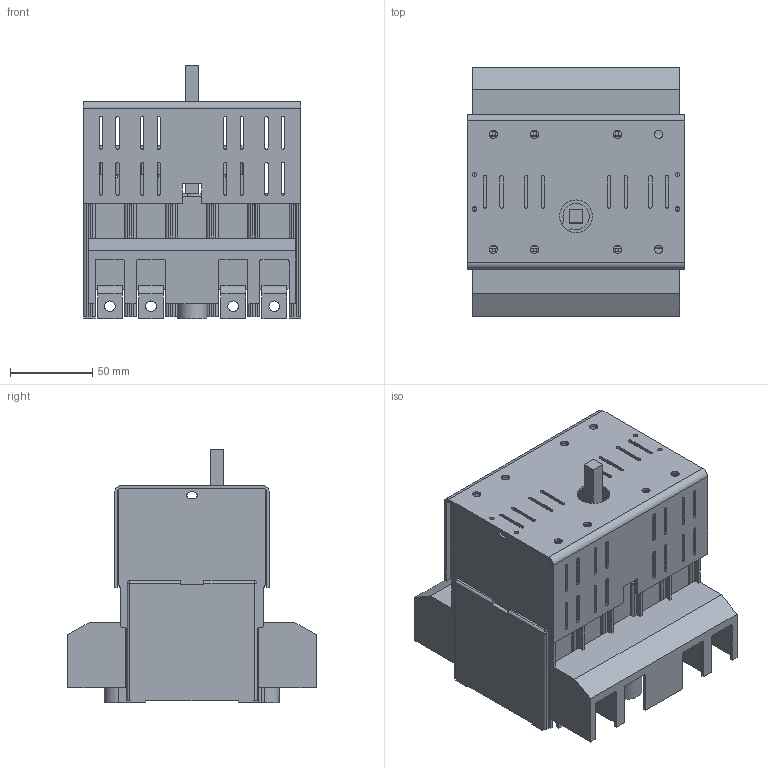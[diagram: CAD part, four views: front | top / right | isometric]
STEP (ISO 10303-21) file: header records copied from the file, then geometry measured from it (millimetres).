
FILE_DESCRIPTION(/* description */ (''),/* implementation_level */ '2;1');
FILE_NAME(/* name */ 'RAB 000 P3 NB, P4 B z oslona zaciskow.stp',/* time_stamp */ '2021-08-19T10:35:09+02:00',/* author */ (''),/* organization */ (''),/* preprocessor_version */ 'ST-DEVELOPER v18.1',/* originating_system */ 'SIEMENS PLM Software NX 1965',/* authorisation */ '');
FILE_SCHEMA (('AUTOMOTIVE_DESIGN { 1 0 10303 214 3 1 1 1 }'));
Length unit declared in the file: millimetre
Products named in the file (1): RAB 000 P3 NB, P4 B z oslona zaciskow_stp
Bounding box: 132.5 x 151.03 x 154 mm (x, y, z)
Volume: 775726.1 mm3; surface area: 258984.5 mm2
Topology: 1 solids, 1 shells, 1165 faces, 3381 edges, 2181 vertices
Faces by surface type: plane 775, cylinder 366, sphere 23, bspline 1
Full cylindrical faces by diameter (mm): 2.7 x4, 5 x8, 5.8 x2, 6.5 x8, 10 x2, 11.5 x2, 20 x1
Entity records: 38114 total; most frequent: CARTESIAN_POINT 6949, ORIENTED_EDGE 6632, DIRECTION 6284, EDGE_CURVE 3316, LINE 2516, VECTOR 2516, VERTEX_POINT 2167, AXIS2_PLACEMENT_3D 1884
